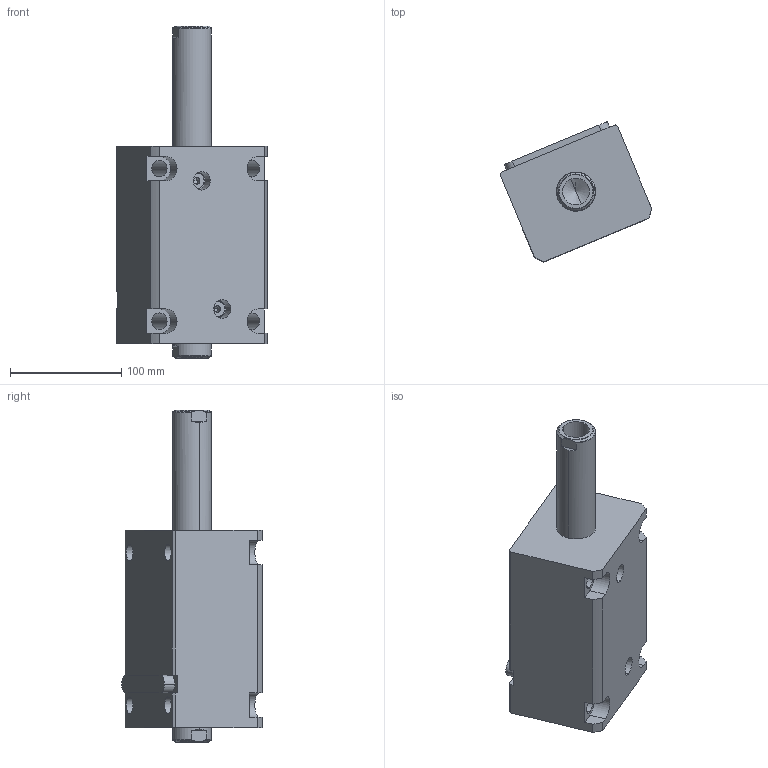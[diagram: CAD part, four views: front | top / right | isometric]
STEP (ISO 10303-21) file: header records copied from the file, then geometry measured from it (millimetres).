
FILE_DESCRIPTION (( 'STEP AP214' ), '1' );
FILE_NAME ('chtb-lw63x95n_asm.STEP', '2018-05-03T09:09:39', ( 'Windows' ), ( 'Microsoft' ), 'SwSTEP 2.0', 'SolidWorks 2015', '' );
FILE_SCHEMA (( 'AUTOMOTIVE_DESIGN' ));
Length unit declared in the file: millimetre
Products named in the file (5): CHTB-63QG; chtb-lw63x95n_asm; CHTB-LA63PJ; CHTB-SW63X95NHSG; CHTB-LW63X95NBT
Assembly tree (4 placements, depth 2):
  chtb-lw63x95n_asm
    CHTB-63QG
    CHTB-LW63X95NBT
    CHTB-SW63X95NHSG
    CHTB-LA63PJ
Bounding box: 135.77 x 126.06 x 298 mm (x, y, z)
Volume: 1604282.1 mm3; surface area: 208017.5 mm2
Topology: 4 solids, 4 shells, 194 faces, 563 edges, 381 vertices
Faces by surface type: cylinder 104, plane 50, cone 16, bspline 12, torus 12
Entity records: 18887 total; most frequent: CARTESIAN_POINT 13868, ORIENTED_EDGE 1110, DIRECTION 876, EDGE_CURVE 555, VERTEX_POINT 381, AXIS2_PLACEMENT_3D 336, EDGE_LOOP 222, VECTOR 204
